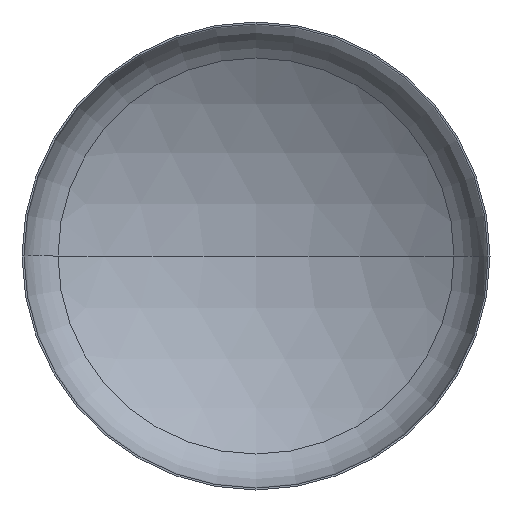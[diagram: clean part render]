
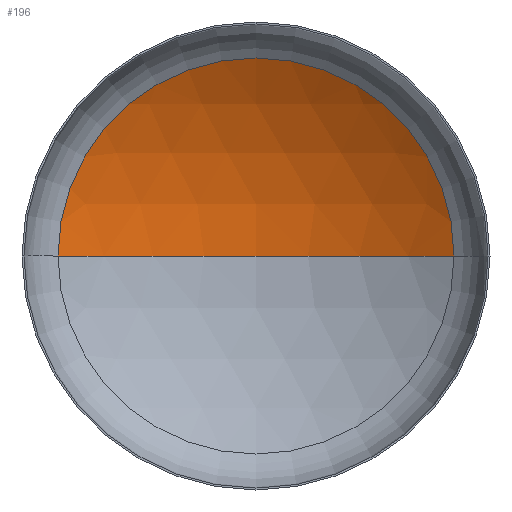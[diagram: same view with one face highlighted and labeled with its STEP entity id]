
A CAD part, front view. The second image highlights one B-rep face of the part: STEP entity #196.
In plain terms, the highlighted spherical face has radius 2720 mm.
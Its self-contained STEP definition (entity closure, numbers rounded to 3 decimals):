
#9 = AXIS2_PLACEMENT_3D ( 'NONE', #143, #144, #114 ) ;
#12 = EDGE_LOOP ( 'NONE', ( #31, #21, #115 ) ) ;
#19 = CIRCLE ( 'NONE', #9, 1438.688 ) ;
#21 = ORIENTED_EDGE ( 'NONE', *, *, #337, .T. ) ;
#23 = VERTEX_POINT ( 'NONE', #256 ) ;
#24 = VERTEX_POINT ( 'NONE', #289 ) ;
#28 = AXIS2_PLACEMENT_3D ( 'NONE', #407, #367, #230 ) ;
#31 = ORIENTED_EDGE ( 'NONE', *, *, #342, .F. ) ;
#33 = AXIS2_PLACEMENT_3D ( 'NONE', #170, #164, #166 ) ;
#45 = VERTEX_POINT ( 'NONE', #253 ) ;
#61 = AXIS2_PLACEMENT_3D ( 'NONE', #255, #148, #298 ) ;
#114 = DIRECTION ( 'NONE',  ( 1., 0., 0. ) ) ;
#115 = ORIENTED_EDGE ( 'NONE', *, *, #363, .T. ) ;
#120 = CIRCLE ( 'NONE', #28, 2720. ) ;
#143 = CARTESIAN_POINT ( 'NONE',  ( 0., 490.55, 0. ) ) ;
#144 = DIRECTION ( 'NONE',  ( 0., -1., 0. ) ) ;
#148 = DIRECTION ( 'NONE',  ( 0., 0., -1. ) ) ;
#164 = DIRECTION ( 'NONE',  ( 0., 0., -1. ) ) ;
#166 = DIRECTION ( 'NONE',  ( -1., 0., 0. ) ) ;
#170 = CARTESIAN_POINT ( 'NONE',  ( 0., -1817.822, 0. ) ) ;
#196 = ADVANCED_FACE ( 'NONE', ( #209 ), #215, .F. ) ;
#209 = FACE_OUTER_BOUND ( 'NONE', #12, .T. ) ;
#215 = SPHERICAL_SURFACE ( 'NONE', #61, 2720. ) ;
#230 = DIRECTION ( 'NONE',  ( 1., 0., 0. ) ) ;
#253 = CARTESIAN_POINT ( 'NONE',  ( 0., 902.178, 0. ) ) ;
#255 = CARTESIAN_POINT ( 'NONE',  ( 0., -1817.822, 0. ) ) ;
#256 = CARTESIAN_POINT ( 'NONE',  ( -1438.688, 490.55, 0. ) ) ;
#289 = CARTESIAN_POINT ( 'NONE',  ( 1438.688, 490.55, 0. ) ) ;
#298 = DIRECTION ( 'NONE',  ( -1., 0., 0. ) ) ;
#313 = CIRCLE ( 'NONE', #33, 2720. ) ;
#337 = EDGE_CURVE ( 'NONE', #45, #24, #313, .T. ) ;
#342 = EDGE_CURVE ( 'NONE', #45, #23, #120, .T. ) ;
#363 = EDGE_CURVE ( 'NONE', #24, #23, #19, .T. ) ;
#367 = DIRECTION ( 'NONE',  ( 0., 0., 1. ) ) ;
#407 = CARTESIAN_POINT ( 'NONE',  ( 0., -1817.822, 0. ) ) ;
